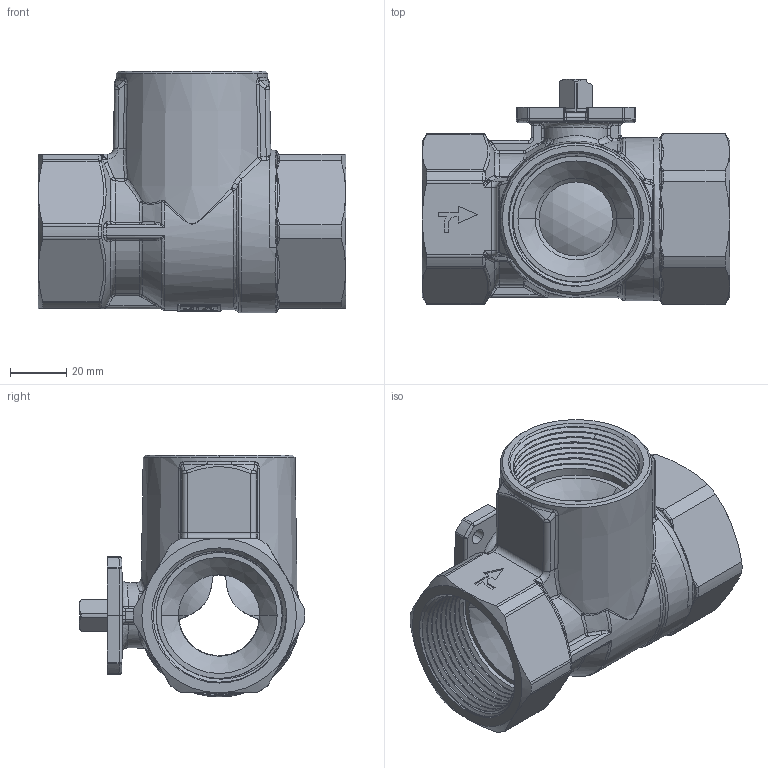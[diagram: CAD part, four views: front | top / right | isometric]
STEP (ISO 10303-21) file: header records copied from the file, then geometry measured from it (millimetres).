
FILE_DESCRIPTION((''),'2;1');
FILE_NAME('H980T1040_1527_SW0001','2015-05-21T',('64ciro'),('Vir spa'),'PRO/ENGINEER BY PARAMETRIC TECHNOLOGY CORPORATION, 2010280','PRO/ENGINEER BY PARAMETRIC TECHNOLOGY CORPORATION, 2010280','');
FILE_SCHEMA(('CONFIG_CONTROL_DESIGN'));
Products named in the file (1): H980T1040_1527_SW0001
Bounding box: 109.6 x 80.29 x 86.1 mm (x, y, z)
Volume: 174162.9 mm3; surface area: 76781.9 mm2
Topology: 1 solids, 1 shells, 1299 faces, 3331 edges, 2043 vertices
Faces by surface type: plane 589, cylinder 272, bspline 245, cone 92, torus 81, sphere 18, extrusion 2
Entity records: 61751 total; most frequent: CARTESIAN_POINT 32541, ORIENTED_EDGE 6566, DIRECTION 5315, EDGE_CURVE 3283, VERTEX_POINT 2043, VECTOR 1773, LINE 1771, AXIS2_PLACEMENT_3D 1771
